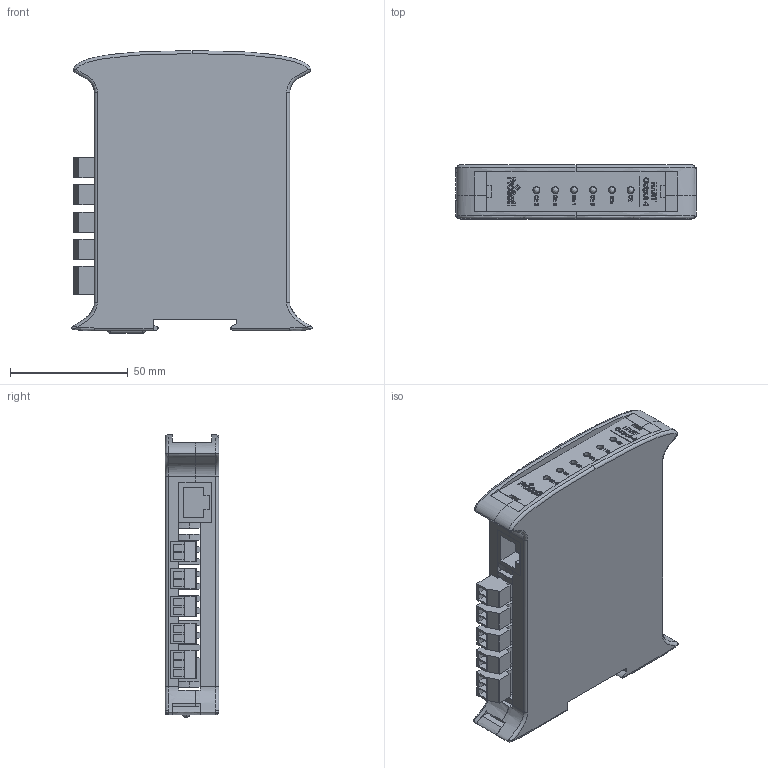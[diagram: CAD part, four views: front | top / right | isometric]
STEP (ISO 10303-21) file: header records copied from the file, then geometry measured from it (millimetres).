
FILE_DESCRIPTION (( 'STEP AP214' ), '1' );
FILE_NAME ('D135-010 PLX51-HART4 O R 1.0.STEP', '2019-10-08T17:31:12', ( '' ), ( '' ), 'SwSTEP 2.0', 'SolidWorks 2015', '' );
FILE_SCHEMA (( 'AUTOMOTIVE_DESIGN' ));
Length unit declared in the file: millimetre
Products named in the file (11): Light_3; clip_3; plugs_3; dipswitch_3; ethernetport_3; Part1_2; enclosure_3; enclosure_bottom_2; faceplate_Hart-4 Out; D135-010 PLX51-HART4 O R 1.0; plugs_2_1
Assembly tree (34 placements, depth 2):
  D135-010 PLX51-HART4 O R 1.0
    faceplate_Hart-4 Out
    enclosure_bottom_2
    enclosure_3
    Part1_2  x17
    ethernetport_3
    dipswitch_3
    plugs_3
    clip_3
    Light_3  x6
    plugs_2_1  x4
Bounding box: 102.12 x 22.8 x 120 mm (x, y, z)
Volume: 83135.2 mm3; surface area: 63923.3 mm2
Topology: 57 solids, 57 shells, 1260 faces, 3164 edges, 2072 vertices
Faces by surface type: plane 977, bspline 207, cylinder 76
Entity records: 50528 total; most frequent: CARTESIAN_POINT 22675, ORIENTED_EDGE 4178, DIRECTION 3009, EDGE_CURVE 2089, VECTOR 1609, LINE 1609, VERTEX_POINT 1384, EDGE_LOOP 883
